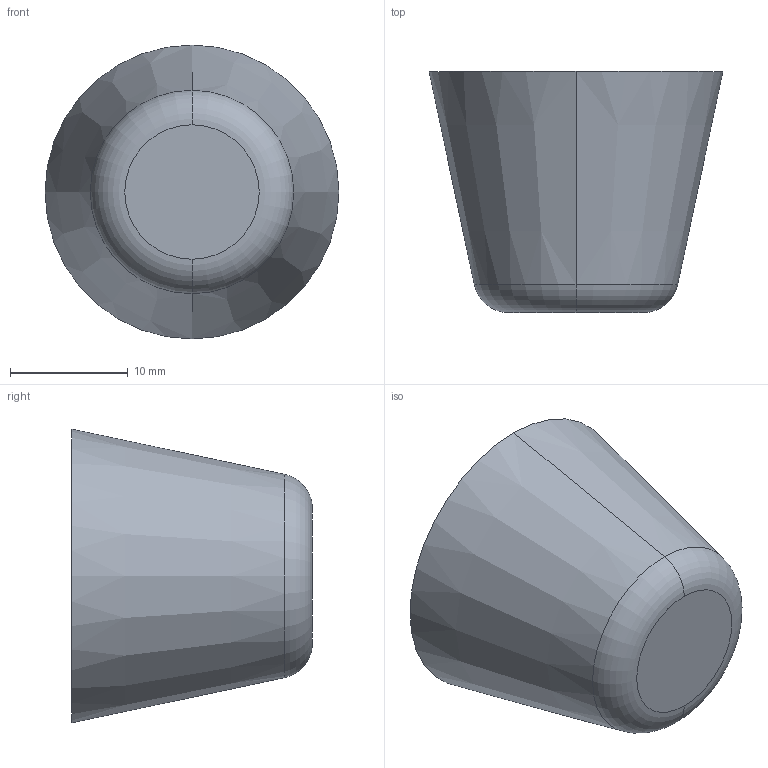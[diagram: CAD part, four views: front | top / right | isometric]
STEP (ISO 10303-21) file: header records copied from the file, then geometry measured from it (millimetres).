
FILE_DESCRIPTION (( 'STEP AP214' ), '1' );
FILE_NAME ('253-25-M6-70.step', '2023-03-24T07:37:28', ( '' ), ( '' ), 'SwSTEP 2.0', 'SolidWorks 2022', '' );
FILE_SCHEMA (( 'AUTOMOTIVE_DESIGN' ));
Length unit declared in the file: millimetre
Products named in the file (1): 253-25-M6-70
Bounding box: 25 x 20.5 x 25 mm (x, y, z)
Volume: 6760.1 mm3; surface area: 2130 mm2
Topology: 1 solids, 1 shells, 16 faces, 32 edges, 19 vertices
Faces by surface type: cone 6, cylinder 4, plane 4, torus 2
Entity records: 554 total; most frequent: DIRECTION 84, CARTESIAN_POINT 66, ORIENTED_EDGE 60, AXIS2_PLACEMENT_3D 37, EDGE_CURVE 30, CIRCLE 20, EDGE_LOOP 19, VERTEX_POINT 19
